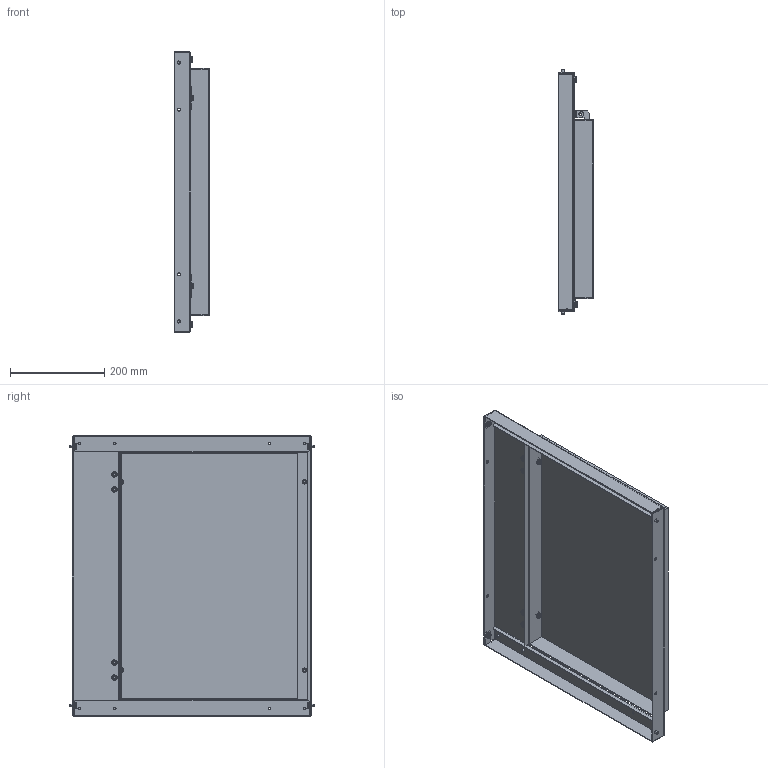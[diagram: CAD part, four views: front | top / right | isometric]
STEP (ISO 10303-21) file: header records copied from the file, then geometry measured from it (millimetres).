
FILE_DESCRIPTION (( 'STEP AP214' ), '1' );
FILE_NAME ('FO-00-MPR-060-060 Ïàíåëü ìîíòàæíàÿ ïîâîðîòíàÿ 600õ600 ìì.STEP', '2025-08-20T07:04:44', ( '' ), ( '' ), 'SwSTEP 2.0', 'SolidWorks 2023', '' );
FILE_SCHEMA (( 'AUTOMOTIVE_DESIGN' ));
Length unit declared in the file: millimetre
Products named in the file (3): Панель монтажная поворотная 600х600 мм; FO-00-MPR-060-060 Панель монтажная поворотная 600х600 мм; Панель монтажная 600х600 мм
Assembly tree (2 placements, depth 2):
  FO-00-MPR-060-060 Панель монтажная поворотная 600х600 мм
    Панель монтажная 600х600 мм
    Панель монтажная поворотная 600х600 мм
Bounding box: 73 x 518.4 x 596 mm (x, y, z)
Volume: 925051 mm3; surface area: 959720.6 mm2
Topology: 2 solids, 18 shells, 907 faces, 2280 edges, 1474 vertices
Faces by surface type: cylinder 458, plane 301, cone 76, torus 72
Entity records: 28038 total; most frequent: DIRECTION 5236, CARTESIAN_POINT 5014, ORIENTED_EDGE 4560, EDGE_CURVE 2280, AXIS2_PLACEMENT_3D 2060, VERTEX_POINT 1474, CIRCLE 1148, VECTOR 1116
